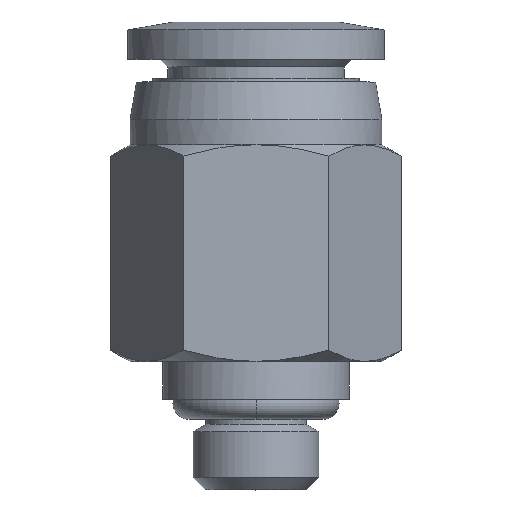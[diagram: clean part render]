
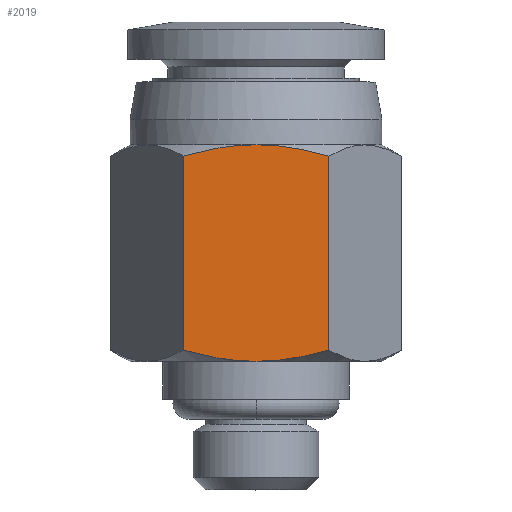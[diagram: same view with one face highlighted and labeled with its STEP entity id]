
A CAD part, top view. The second image highlights one B-rep face of the part: STEP entity #2019.
In plain terms, the highlighted planar face has unit normal (0, 0, 1).
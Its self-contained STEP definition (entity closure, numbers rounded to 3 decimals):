
#1 = CARTESIAN_POINT ( 'NONE',  ( 2.371, 13.402, 5. ) ) ;
#11 = AXIS2_PLACEMENT_3D ( 'NONE', #48, #841, #1079 ) ;
#32 = CARTESIAN_POINT ( 'NONE',  ( 1.863, 5.283, 5. ) ) ;
#41 = CARTESIAN_POINT ( 'NONE',  ( -0.919, 5.137, 5. ) ) ;
#48 = CARTESIAN_POINT ( 'NONE',  ( 0., 5.1, 5. ) ) ;
#237 = CARTESIAN_POINT ( 'NONE',  ( 0.808, 13.663, 5. ) ) ;
#249 = PLANE ( 'NONE',  #11 ) ;
#370 = VERTEX_POINT ( 'NONE', #1352 ) ;
#476 = CARTESIAN_POINT ( 'NONE',  ( -1.881, 13.503, 5. ) ) ;
#488 = CARTESIAN_POINT ( 'NONE',  ( 0.462, 13.691, 5. ) ) ;
#550 = CARTESIAN_POINT ( 'NONE',  ( 0., 13.7, 5. ) ) ;
#603 = ORIENTED_EDGE ( 'NONE', *, *, #1166, .F. ) ;
#641 = CARTESIAN_POINT ( 'NONE',  ( -2.887, 13.253, 5. ) ) ;
#656 = VERTEX_POINT ( 'NONE', #3353 ) ;
#697 = B_SPLINE_CURVE_WITH_KNOTS ( 'NONE', 3,
 ( #3075, #2817, #488, #237, #1270, #2306, #3352, #1015, #1799, #2834, #1, #1291 ),
 .UNSPECIFIED., .F., .F.,
 ( 4, 2, 2, 2, 2, 4 ),
 ( 0., 0.25, 0.375, 0.437, 0.5, 1. ),
 .UNSPECIFIED. ) ;
#792 = CARTESIAN_POINT ( 'NONE',  ( 2.887, 13.253, 5. ) ) ;
#841 = DIRECTION ( 'NONE',  ( 0., 0., 1. ) ) ;
#867 = B_SPLINE_CURVE_WITH_KNOTS ( 'NONE', 3,
 ( #1336, #1192, #1149, #2476 ),
 .UNSPECIFIED., .F., .F.,
 ( 4, 4 ),
 ( 0., 1. ),
 .UNSPECIFIED. ) ;
#929 = B_SPLINE_CURVE_WITH_KNOTS ( 'NONE', 3,
 ( #1851, #2619, #2085, #32, #1361, #3124 ),
 .UNSPECIFIED., .F., .F.,
 ( 4, 2, 4 ),
 ( 0., 0.5, 1. ),
 .UNSPECIFIED. ) ;
#1015 = CARTESIAN_POINT ( 'NONE',  ( 1.273, 13.608, 5. ) ) ;
#1019 = B_SPLINE_CURVE_WITH_KNOTS ( 'NONE', 3,
 ( #2329, #1784, #2838, #41, #3355, #1317 ),
 .UNSPECIFIED., .F., .F.,
 ( 4, 2, 4 ),
 ( 0., 0.5, 1. ),
 .UNSPECIFIED. ) ;
#1041 = CARTESIAN_POINT ( 'NONE',  ( -1.635, 13.55, 5. ) ) ;
#1079 = DIRECTION ( 'NONE',  ( 1., 0., 0. ) ) ;
#1149 = CARTESIAN_POINT ( 'NONE',  ( 2.887, 8.116, 5. ) ) ;
#1166 = EDGE_CURVE ( 'NONE', #2020, #1965, #867, .T. ) ;
#1192 = CARTESIAN_POINT ( 'NONE',  ( 2.887, 10.684, 5. ) ) ;
#1235 = ORIENTED_EDGE ( 'NONE', *, *, #1922, .F. ) ;
#1249 = EDGE_CURVE ( 'NONE', #3297, #1711, #2082, .T. ) ;
#1270 = CARTESIAN_POINT ( 'NONE',  ( 0.923, 13.652, 5. ) ) ;
#1291 = CARTESIAN_POINT ( 'NONE',  ( 2.887, 13.253, 5. ) ) ;
#1317 = CARTESIAN_POINT ( 'NONE',  ( 0., 5.1, 5. ) ) ;
#1336 = CARTESIAN_POINT ( 'NONE',  ( 2.887, 13.253, 5. ) ) ;
#1341 = CARTESIAN_POINT ( 'NONE',  ( -0.466, 13.7, 5. ) ) ;
#1352 = CARTESIAN_POINT ( 'NONE',  ( 0., 13.7, 5. ) ) ;
#1361 = CARTESIAN_POINT ( 'NONE',  ( 2.361, 5.395, 5. ) ) ;
#1595 = CARTESIAN_POINT ( 'NONE',  ( -1.45, 13.581, 5. ) ) ;
#1687 = CARTESIAN_POINT ( 'NONE',  ( -2.887, 5.547, 5. ) ) ;
#1711 = VERTEX_POINT ( 'NONE', #1687 ) ;
#1784 = CARTESIAN_POINT ( 'NONE',  ( -2.362, 5.395, 5. ) ) ;
#1792 = ORIENTED_EDGE ( 'NONE', *, *, #1989, .F. ) ;
#1799 = CARTESIAN_POINT ( 'NONE',  ( 1.329, 13.6, 5. ) ) ;
#1805 = CARTESIAN_POINT ( 'NONE',  ( -2.887, 13.253, 5. ) ) ;
#1847 = CARTESIAN_POINT ( 'NONE',  ( -2.004, 13.478, 5. ) ) ;
#1851 = CARTESIAN_POINT ( 'NONE',  ( 0., 5.1, 5. ) ) ;
#1922 = EDGE_CURVE ( 'NONE', #3297, #370, #2368, .T. ) ;
#1965 = VERTEX_POINT ( 'NONE', #2017 ) ;
#1989 = EDGE_CURVE ( 'NONE', #370, #2020, #697, .T. ) ;
#2017 = CARTESIAN_POINT ( 'NONE',  ( 2.887, 5.547, 5. ) ) ;
#2019 = ADVANCED_FACE ( 'NONE', ( #2071 ), #249, .T. ) ;
#2020 = VERTEX_POINT ( 'NONE', #792 ) ;
#2071 = FACE_OUTER_BOUND ( 'NONE', #2603, .T. ) ;
#2082 = B_SPLINE_CURVE_WITH_KNOTS ( 'NONE', 3,
 ( #641, #3215, #3230, #2432 ),
 .UNSPECIFIED., .F., .F.,
 ( 4, 4 ),
 ( 0., 1. ),
 .UNSPECIFIED. ) ;
#2085 = CARTESIAN_POINT ( 'NONE',  ( 0.919, 5.137, 5. ) ) ;
#2097 = CARTESIAN_POINT ( 'NONE',  ( -2.377, 13.393, 5. ) ) ;
#2110 = EDGE_CURVE ( 'NONE', #656, #1965, #929, .T. ) ;
#2306 = CARTESIAN_POINT ( 'NONE',  ( 1.098, 13.632, 5. ) ) ;
#2329 = CARTESIAN_POINT ( 'NONE',  ( -2.887, 5.547, 5. ) ) ;
#2368 = B_SPLINE_CURVE_WITH_KNOTS ( 'NONE', 3,
 ( #1805, #2805, #2097, #1847, #476, #2841, #1041, #2374, #1595, #2630, #1341, #550 ),
 .UNSPECIFIED., .F., .F.,
 ( 4, 2, 2, 2, 2, 4 ),
 ( 0., 0.25, 0.375, 0.438, 0.5, 1. ),
 .UNSPECIFIED. ) ;
#2374 = CARTESIAN_POINT ( 'NONE',  ( -1.513, 13.571, 5. ) ) ;
#2415 = ORIENTED_EDGE ( 'NONE', *, *, #2725, .T. ) ;
#2432 = CARTESIAN_POINT ( 'NONE',  ( -2.887, 5.547, 5. ) ) ;
#2443 = CARTESIAN_POINT ( 'NONE',  ( -2.887, 13.253, 5. ) ) ;
#2476 = CARTESIAN_POINT ( 'NONE',  ( 2.887, 5.547, 5. ) ) ;
#2603 = EDGE_LOOP ( 'NONE', ( #3126, #2415, #3335, #603, #1792, #1235 ) ) ;
#2619 = CARTESIAN_POINT ( 'NONE',  ( 0.455, 5.1, 5. ) ) ;
#2630 = CARTESIAN_POINT ( 'NONE',  ( -0.918, 13.663, 5. ) ) ;
#2725 = EDGE_CURVE ( 'NONE', #1711, #656, #1019, .T. ) ;
#2805 = CARTESIAN_POINT ( 'NONE',  ( -2.629, 13.328, 5. ) ) ;
#2817 = CARTESIAN_POINT ( 'NONE',  ( 0.233, 13.7, 5. ) ) ;
#2834 = CARTESIAN_POINT ( 'NONE',  ( 1.88, 13.515, 5. ) ) ;
#2838 = CARTESIAN_POINT ( 'NONE',  ( -1.863, 5.283, 5. ) ) ;
#2841 = CARTESIAN_POINT ( 'NONE',  ( -1.697, 13.539, 5. ) ) ;
#3075 = CARTESIAN_POINT ( 'NONE',  ( 0., 13.7, 5. ) ) ;
#3124 = CARTESIAN_POINT ( 'NONE',  ( 2.887, 5.547, 5. ) ) ;
#3126 = ORIENTED_EDGE ( 'NONE', *, *, #1249, .T. ) ;
#3215 = CARTESIAN_POINT ( 'NONE',  ( -2.887, 10.684, 5. ) ) ;
#3230 = CARTESIAN_POINT ( 'NONE',  ( -2.887, 8.116, 5. ) ) ;
#3297 = VERTEX_POINT ( 'NONE', #2443 ) ;
#3335 = ORIENTED_EDGE ( 'NONE', *, *, #2110, .T. ) ;
#3352 = CARTESIAN_POINT ( 'NONE',  ( 1.156, 13.624, 5. ) ) ;
#3353 = CARTESIAN_POINT ( 'NONE',  ( 0., 5.1, 5. ) ) ;
#3355 = CARTESIAN_POINT ( 'NONE',  ( -0.455, 5.1, 5. ) ) ;
